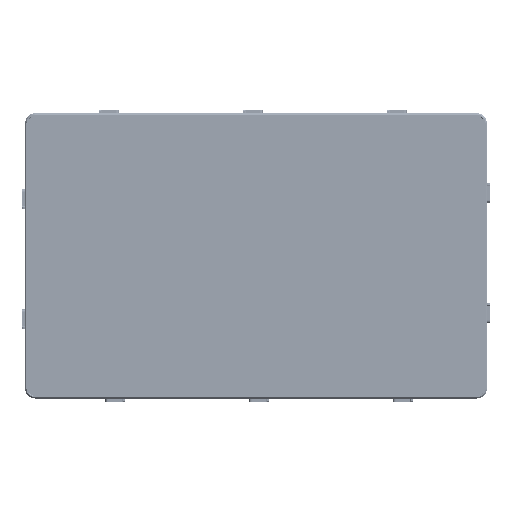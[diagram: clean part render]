
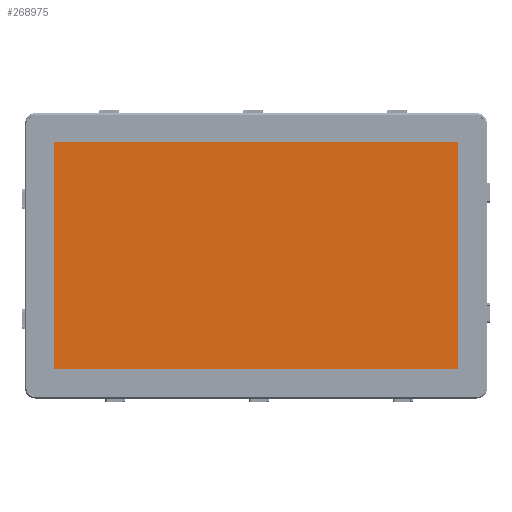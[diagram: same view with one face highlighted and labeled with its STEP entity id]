
A CAD part, top view. The second image highlights one B-rep face of the part: STEP entity #268975.
In plain terms, the highlighted planar face has unit normal (0, 0, 1).
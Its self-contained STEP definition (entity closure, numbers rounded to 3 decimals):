
#21861=FACE_OUTER_BOUND('',#36294,.T.);
#36294=EDGE_LOOP('',(#222814,#222815,#222816,#222817));
#68939=LINE('',#457056,#95595);
#68943=LINE('',#457064,#95599);
#68946=LINE('',#457070,#95602);
#68949=LINE('',#457075,#95605);
#95595=VECTOR('',#344213,10.);
#95599=VECTOR('',#344219,10.);
#95602=VECTOR('',#344224,10.);
#95605=VECTOR('',#344229,10.);
#119170=VERTEX_POINT('',#457054);
#119171=VERTEX_POINT('',#457055);
#119174=VERTEX_POINT('',#457063);
#119176=VERTEX_POINT('',#457069);
#154333=EDGE_CURVE('',#119170,#119171,#68939,.T.);
#154337=EDGE_CURVE('',#119171,#119174,#68943,.T.);
#154340=EDGE_CURVE('',#119174,#119176,#68946,.T.);
#154343=EDGE_CURVE('',#119176,#119170,#68949,.T.);
#222814=ORIENTED_EDGE('',*,*,#154333,.T.);
#222815=ORIENTED_EDGE('',*,*,#154337,.T.);
#222816=ORIENTED_EDGE('',*,*,#154340,.T.);
#222817=ORIENTED_EDGE('',*,*,#154343,.T.);
#243649=PLANE('',#286995);
#268975=ADVANCED_FACE('',(#21861),#243649,.F.);
#286995=AXIS2_PLACEMENT_3D('',#457077,#344231,#344232);
#344213=DIRECTION('',(1.,0.,0.));
#344219=DIRECTION('',(0.,1.,0.));
#344224=DIRECTION('',(-1.,0.,0.));
#344229=DIRECTION('',(0.,-1.,0.));
#344231=DIRECTION('center_axis',(0.,0.,
-1.));
#344232=DIRECTION('ref_axis',(1.,0.,0.));
#457054=CARTESIAN_POINT('',(-238.4,-134.15,1.1));
#457055=CARTESIAN_POINT('',(238.4,-134.15,1.1));
#457056=CARTESIAN_POINT('',(238.4,-134.15,1.1));
#457063=CARTESIAN_POINT('',(238.4,134.15,1.1));
#457064=CARTESIAN_POINT('',(238.4,134.15,1.1));
#457069=CARTESIAN_POINT('',(-238.4,134.15,1.1));
#457070=CARTESIAN_POINT('',(-238.4,134.15,1.1));
#457075=CARTESIAN_POINT('',(-238.4,-134.15,1.1));
#457077=CARTESIAN_POINT('Origin',(0.,0.,
1.1));
